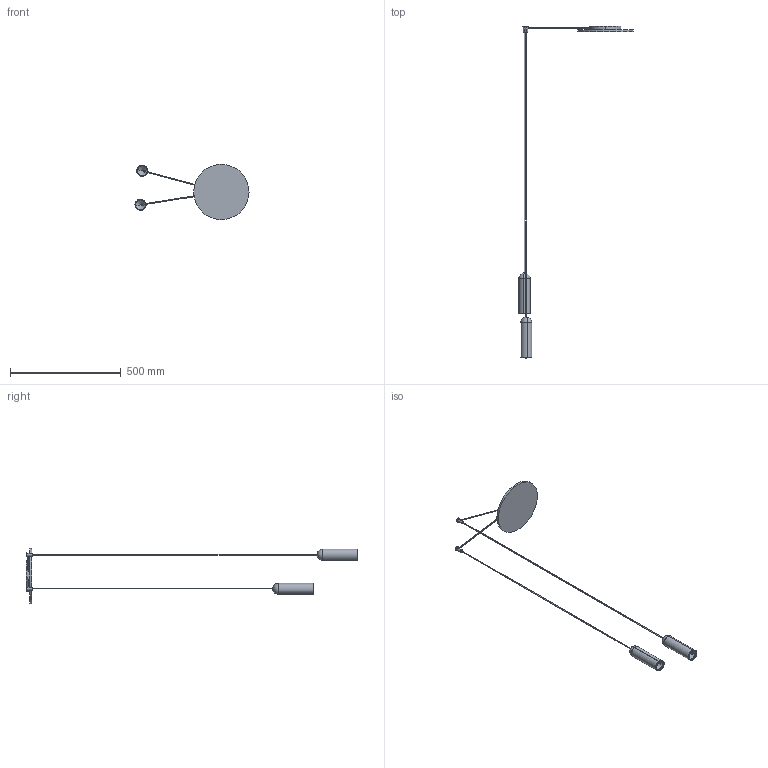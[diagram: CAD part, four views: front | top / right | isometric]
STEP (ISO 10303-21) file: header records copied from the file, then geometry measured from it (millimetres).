
FILE_DESCRIPTION (( 'STEP AP203' ), '1' );
FILE_NAME ('NAN02-00-NANUM 2 ROSONE CENTRALE.STEP', '2024-07-31T07:27:27', ( '' ), ( '' ), 'SwSTEP 2.0', 'SolidWorks 2022', '' );
FILE_SCHEMA (( 'CONFIG_CONTROL_DESIGN' ));
Length unit declared in the file: millimetre
Products named in the file (4): NANUM_Rosone diam.250_Nanum 2<A macchina>; NAN02-00-NANUM 2 ROSONE CENTRALE; NANUM_LAMPADA SINGOLA_H=1700; NANUM_LAMPADA SINGOLA_H=1500
Assembly tree (3 placements, depth 2):
  NAN02-00-NANUM 2 ROSONE CENTRALE
    NANUM_Rosone diam.250_Nanum 2<A macchina>
    NANUM_LAMPADA SINGOLA_H=1500
    NANUM_LAMPADA SINGOLA_H=1700
Bounding box: 515.44 x 1500 x 250 mm (x, y, z)
Volume: 878591.9 mm3; surface area: 274595.8 mm2
Topology: 7 solids, 7 shells, 79 faces, 172 edges, 100 vertices
Faces by surface type: cylinder 40, plane 19, cone 8, sphere 8, torus 4
Entity records: 2508 total; most frequent: CARTESIAN_POINT 453, DIRECTION 402, ORIENTED_EDGE 296, AXIS2_PLACEMENT_3D 177, EDGE_CURVE 148, CIRCLE 92, VERTEX_POINT 92, EDGE_LOOP 88
